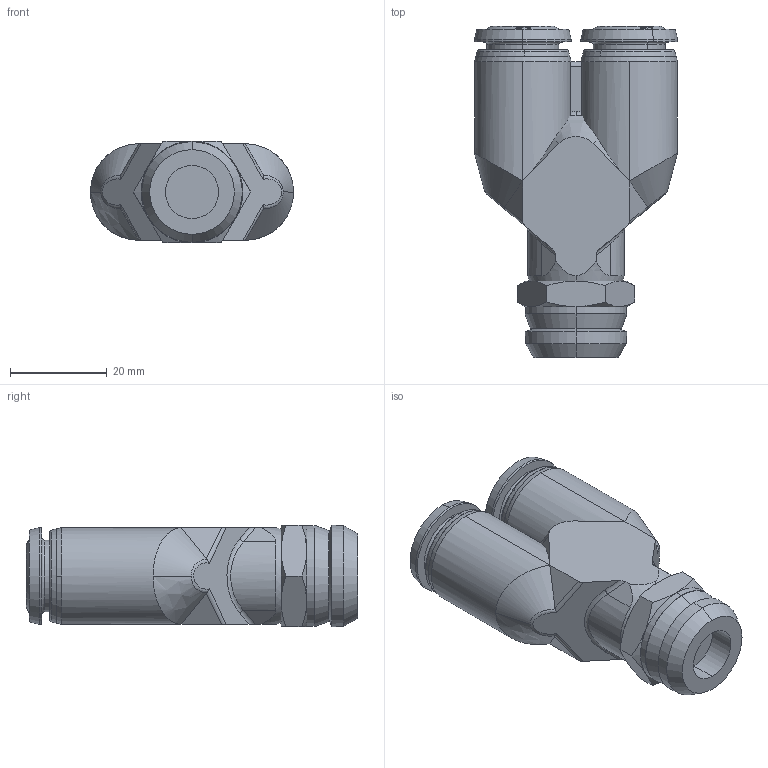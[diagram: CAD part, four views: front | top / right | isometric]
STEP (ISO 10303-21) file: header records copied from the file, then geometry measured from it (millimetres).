
FILE_DESCRIPTION (( 'STEP AP214' ), '1' );
FILE_NAME ('5532000013.step', '2012-10-02T17:46:16', ( '' ), ( '' ), 'SwSTEP 2.0', 'SolidWorks 2012', '' );
FILE_SCHEMA (( 'AUTOMOTIVE_DESIGN' ));
Length unit declared in the file: millimetre
Products named in the file (1): 5532000013
Bounding box: 42 x 68.5 x 21.03 mm (x, y, z)
Volume: 32755.8 mm3; surface area: 8949.8 mm2
Topology: 1 solids, 1 shells, 280 faces, 727 edges, 472 vertices
Faces by surface type: bspline 116, cone 70, plane 43, cylinder 34, torus 17
Entity records: 18866 total; most frequent: CARTESIAN_POINT 10038, ORIENTED_EDGE 1454, DIRECTION 748, EDGE_CURVE 727, VERTEX_POINT 472, B_SPLINE_CURVE_WITH_KNOTS 436, AXIS2_PLACEMENT_3D 310, EDGE_LOOP 303
